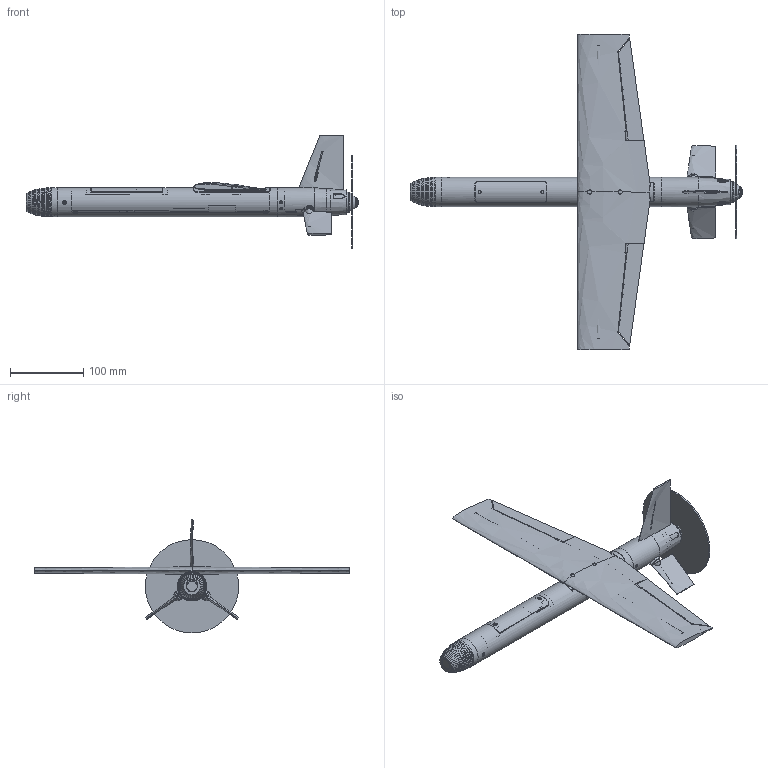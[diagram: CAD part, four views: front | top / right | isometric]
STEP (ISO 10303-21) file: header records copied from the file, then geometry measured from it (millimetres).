
FILE_DESCRIPTION(('SkyG Speed 90B - revision C6B-5 - 2026-10-08','C6B-assembly'),'2;1');
FILE_NAME('C6B-assembly_C6B-5','2026-10-08T10:12:29',('Author'),( 'Open CASCADE'),'Open CASCADE STEP processor 7.9','Open CASCADE 7.9' ,'Unknown');
FILE_SCHEMA(('AUTOMOTIVE_DESIGN { 1 0 10303 214 1 1 1 1 }'));
Length unit declared in the file: millimetre
Products named in the file (140): C4; N0M-nose-micro-camera; N0M-vtx-shelf; F3-tail-module; WR-wing-right; WL-wing-left; AR-aileron-right; AL-aileron-left; SR-stabilator-right; SL-stabilator-left; FN-fin; AHR-aileron-horn-right; AHL-aileron-horn-left; THR-tail-horn-right; THL-tail-horn-left; TR-equipment-tray; TC-tail-coupler; CW-countersunk-washer; NB1-wing-nut-bar-front; NB2-wing-nut-bar-rear; HL1-hatch-lip-front; HL2-hatch-lip-rear; HF-front-hatch; WF-wing-window-filler; HG-gps-carrier; M1-motor-plate; SP-spinner; ENV-motor; ENV-prop_disc; ENV-prop_hub_nut; ENV-battery; ENV-camera_micro19; ENV-cam_screws; ENV-O_o4_camera; ENV-O_o4_screws; ENV-O_o4_module; ENV-vtx; ENV-gnss; ENV-flight_controller; ENV-ail_servo_arm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
Assembly tree (139 placements, depth 2):
  C4
    N0M-nose-micro-camera
    N0M-vtx-shelf
    F3-tail-module
    WR-wing-right
    WL-wing-left
    AR-aileron-right
    AL-aileron-left
    SR-stabilator-right
    SL-stabilator-left
    FN-fin
    AHR-aileron-horn-right
    AHL-aileron-horn-left
    THR-tail-horn-right
    THL-tail-horn-left
    TR-equipment-tray
    TC-tail-coupler
    CW-countersunk-washer
    NB1-wing-nut-bar-front
    NB2-wing-nut-bar-rear
    HL1-hatch-lip-front
    HL2-hatch-lip-rear
    HF-front-hatch
    WF-wing-window-filler
    HG-gps-carrier
    M1-motor-plate
    SP-spinner
    ENV-motor
    ENV-prop_disc
    ENV-prop_hub_nut
    ENV-battery
    ENV-camera_micro19
    ENV-cam_screws
    ENV-O_o4_camera
    ENV-O_o4_screws
    ENV-O_o4_module
    ENV-vtx
    ENV-gnss
    ENV-flight_controller
    ENV-ail_servo_arm
    ENV-ail_rod_R
    ENV-ail_link_R
    ENV-ail_rod_L
    ENV-ail_link_L
    ENV-ail_spine_R
    ENV-ail_spine_L
    ENV-receiver
    ENV-ant_elrs
    ENV-ant_vtx
    ENV-O_ant_video
    ENV-aileron_servo
    ENV-tail_servo_L
    ENV-tail_servo_R
    ENV-esc
    ENV-tail_servo_arm_R
    ENV-tail_link_R
    ENV-tail_servo_arm_L
    ENV-tail_link_L
    ENV-wire_video__red
    ENV-wire_video__black
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Bounding box: 452.19 x 430 x 155.1 mm (x, y, z)
Volume: 473127.9 mm3; surface area: 340826.5 mm2
Topology: 176 solids, 176 shells, 2432 faces, 6192 edges, 4094 vertices
Faces by surface type: plane 1584, cylinder 461, bspline 217, cone 130, torus 15, sphere 14, revolution 11
Full cylindrical faces by diameter (mm): 0.98 x6, 1.107 x11, 1.2 x22, 1.25 x8, 1.5 x2, 1.6 x28, 1.9 x1, 2 x28, 2.1 x2, 2.2 x14, 2.5 x2, 2.6 x6, 2.842 x6, 3 x13, 3.05 x2, 3.2 x4, 3.8 x2, 3.9 x3, 3.94 x3, 4 x4, 4.9 x6, 5 x10, 5.2 x3, 5.5 x4, 5.6 x3, 6 x3, 9 x1, 9.2 x1, 12.7 x1, 13 x2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
Entity records: 391872 total; most frequent: CARTESIAN_POINT 273711, DIRECTION 18531, ORIENTED_EDGE 12356, PCURVE 12356, DEFINITIONAL_REPRESENTATION 12356, LINE 8362, VECTOR 8362, EDGE_CURVE 6178
